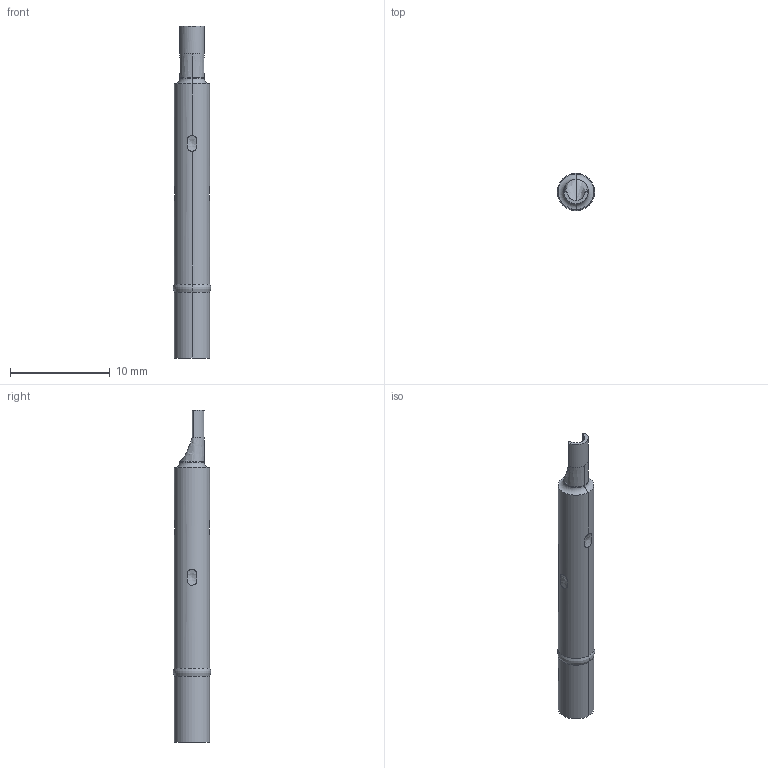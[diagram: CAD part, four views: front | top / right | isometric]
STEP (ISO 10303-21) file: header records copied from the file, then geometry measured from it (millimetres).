
FILE_DESCRIPTION (( 'STEP AP214' ), '1' );
FILE_NAME ('RA7S.STEP', '2025-02-03T13:49:50', ( '' ), ( '' ), 'SwSTEP 2.0', 'SolidWorks 2024', '' );
FILE_SCHEMA (( 'AUTOMOTIVE_DESIGN' ));
Length unit declared in the file: millimetre
Products named in the file (1): RA7S
Bounding box: 3.73 x 3.75 x 33.25 mm (x, y, z)
Volume: 63.3 mm3; surface area: 640.8 mm2
Topology: 1 solids, 1 shells, 38 faces, 108 edges, 77 vertices
Faces by surface type: cylinder 17, bspline 10, torus 6, plane 5
Entity records: 2804 total; most frequent: CARTESIAN_POINT 1852, ORIENTED_EDGE 216, DIRECTION 161, EDGE_CURVE 108, VERTEX_POINT 77, AXIS2_PLACEMENT_3D 68, B_SPLINE_CURVE_WITH_KNOTS 44, EDGE_LOOP 43
